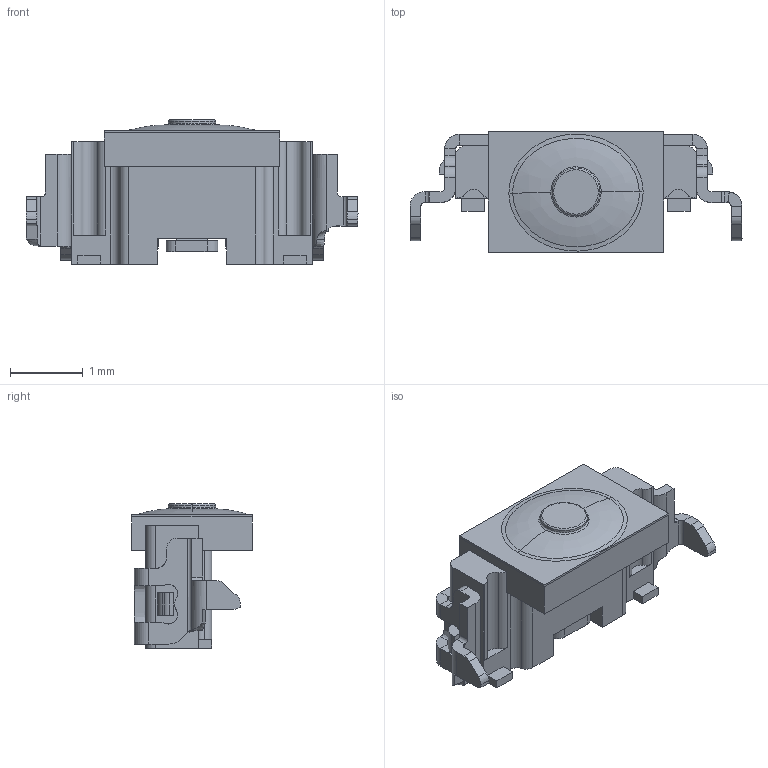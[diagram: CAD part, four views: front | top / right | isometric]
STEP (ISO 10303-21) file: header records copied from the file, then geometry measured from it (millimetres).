
FILE_DESCRIPTION((''),'2;1');
FILE_NAME('JQD1624F-B0191-03FG-1-106_ASM','2026-04-11T14:44:49',('Admin'),(''),'CREO PARAMETRIC BY PTC INC, 2019224','CREO PARAMETRIC BY PTC INC, 2019224','');
FILE_SCHEMA(('AUTOMOTIVE_DESIGN { 1 0 10303 214 1 1 1 1 }'));
Length unit declared in the file: millimetre
Products named in the file (8): JQD1624F-B0191-03FG-1-106_02; JQD1624F-B0191-03FG-1-106_03; JQD1624F-B0191-03FG-1-106_04; JQD1624F-B0191-03FG-1-106_05; JQD1624F-B0191-03FG-1-106_06; JQD1624F-B0191-03FG-1-106_07; JQD1624F-B0191-03FG-1-106_01_ASM; JQD1624F-B0191-03FG-1-106_ASM
Assembly tree (7 placements, depth 3):
  JQD1624F-B0191-03FG-1-106_ASM
    JQD1624F-B0191-03FG-1-106_01_ASM
      JQD1624F-B0191-03FG-1-106_02
      JQD1624F-B0191-03FG-1-106_03
      JQD1624F-B0191-03FG-1-106_04
      JQD1624F-B0191-03FG-1-106_05
      JQD1624F-B0191-03FG-1-106_06
      JQD1624F-B0191-03FG-1-106_07
Bounding box: 4.55 x 1.65 x 1.98 mm (x, y, z)
Volume: 6.3 mm3; surface area: 53.9 mm2
Topology: 6 solids, 6 shells, 260 faces, 676 edges, 428 vertices
Faces by surface type: plane 139, cylinder 66, bspline 33, extrusion 20, torus 2
Entity records: 12159 total; most frequent: CARTESIAN_POINT 5157, ORIENTED_EDGE 1352, DIRECTION 1160, EDGE_CURVE 676, VECTOR 434, VERTEX_POINT 428, LINE 414, AXIS2_PLACEMENT_3D 363
